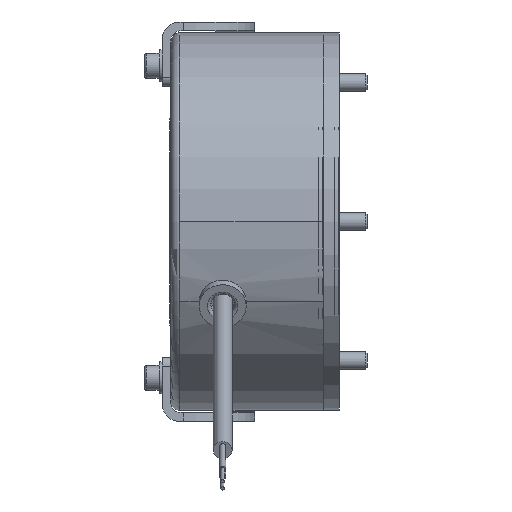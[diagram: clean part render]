
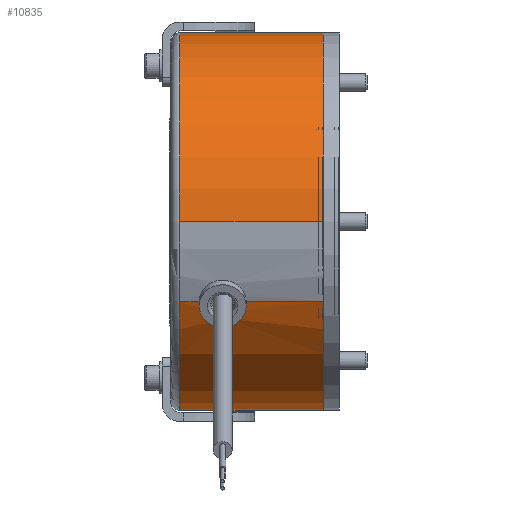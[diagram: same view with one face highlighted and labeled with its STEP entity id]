
A CAD part, front view. The second image highlights one B-rep face of the part: STEP entity #10835.
In plain terms, the highlighted cylindrical face has radius 53 mm (diameter 106 mm), a partial arc.
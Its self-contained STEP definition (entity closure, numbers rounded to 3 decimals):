
#418=FACE_OUTER_BOUND('',#1016,.T.);
#1016=EDGE_LOOP('',(#6629,#6630,#6631,#6632,#6633,#6634,#6635,#6636,#6637,
#6638,#6639));
#1724=B_SPLINE_CURVE_WITH_KNOTS('',3,(#16190,#16191,#16192,#16193,#16194,
#16195,#16196,#16197,#16198,#16199,#16200,#16201,#16202),.UNSPECIFIED.,
 .F.,.F.,(4,1,1,1,1,1,1,1,1,1,4),(-1.74,-1.492,-1.326,
-0.995,-0.746,-0.622,-0.497,
-0.373,-0.249,-0.124,0.),
 .UNSPECIFIED.);
#1954=CIRCLE('',#11458,53.);
#1955=CIRCLE('',#11459,53.);
#1956=CIRCLE('',#11460,53.);
#1957=CIRCLE('',#11461,53.);
#1958=CIRCLE('',#11462,53.);
#2741=LINE('',#16172,#3310);
#2742=LINE('',#16180,#3311);
#2743=LINE('',#16186,#3312);
#2744=LINE('',#16188,#3313);
#2745=LINE('',#16203,#3314);
#3310=VECTOR('',#12841,53.);
#3311=VECTOR('',#12848,53.);
#3312=VECTOR('',#12853,53.);
#3313=VECTOR('',#12854,10.);
#3314=VECTOR('',#12855,10.);
#3879=VERTEX_POINT('',#16170);
#3880=VERTEX_POINT('',#16171);
#3881=VERTEX_POINT('',#16173);
#3882=VERTEX_POINT('',#16175);
#3883=VERTEX_POINT('',#16177);
#3884=VERTEX_POINT('',#16179);
#3885=VERTEX_POINT('',#16181);
#3886=VERTEX_POINT('',#16183);
#3887=VERTEX_POINT('',#16185);
#3888=VERTEX_POINT('',#16187);
#3889=VERTEX_POINT('',#16189);
#5002=EDGE_CURVE('',#3879,#3880,#2741,.T.);
#5003=EDGE_CURVE('',#3881,#3879,#1954,.T.);
#5004=EDGE_CURVE('',#3882,#3881,#1955,.T.);
#5005=EDGE_CURVE('',#3883,#3882,#1956,.T.);
#5006=EDGE_CURVE('',#3884,#3883,#2742,.T.);
#5007=EDGE_CURVE('',#3885,#3884,#1957,.T.);
#5008=EDGE_CURVE('',#3886,#3885,#1958,.T.);
#5009=EDGE_CURVE('',#3887,#3886,#2743,.T.);
#5010=EDGE_CURVE('',#3888,#3887,#2744,.T.);
#5011=EDGE_CURVE('',#3889,#3888,#1724,.T.);
#5012=EDGE_CURVE('',#3880,#3889,#2745,.T.);
#6629=ORIENTED_EDGE('',*,*,#5002,.F.);
#6630=ORIENTED_EDGE('',*,*,#5003,.F.);
#6631=ORIENTED_EDGE('',*,*,#5004,.F.);
#6632=ORIENTED_EDGE('',*,*,#5005,.F.);
#6633=ORIENTED_EDGE('',*,*,#5006,.F.);
#6634=ORIENTED_EDGE('',*,*,#5007,.F.);
#6635=ORIENTED_EDGE('',*,*,#5008,.F.);
#6636=ORIENTED_EDGE('',*,*,#5009,.F.);
#6637=ORIENTED_EDGE('',*,*,#5010,.F.);
#6638=ORIENTED_EDGE('',*,*,#5011,.F.);
#6639=ORIENTED_EDGE('',*,*,#5012,.F.);
#9883=CYLINDRICAL_SURFACE('',#11457,53.);
#10835=ADVANCED_FACE('',(#418),#9883,.T.);
#11457=AXIS2_PLACEMENT_3D('',#16169,#12839,#12840);
#11458=AXIS2_PLACEMENT_3D('',#16174,#12842,#12843);
#11459=AXIS2_PLACEMENT_3D('',#16176,#12844,#12845);
#11460=AXIS2_PLACEMENT_3D('',#16178,#12846,#12847);
#11461=AXIS2_PLACEMENT_3D('',#16182,#12849,#12850);
#11462=AXIS2_PLACEMENT_3D('',#16184,#12851,#12852);
#12839=DIRECTION('center_axis',(1.,0.,0.));
#12840=DIRECTION('ref_axis',(0.,0.906,0.423));
#12841=DIRECTION('',(1.,0.,0.));
#12842=DIRECTION('center_axis',(-1.,0.,0.));
#12843=DIRECTION('ref_axis',(0.,-1.,0.));
#12844=DIRECTION('center_axis',(-1.,0.,0.));
#12845=DIRECTION('ref_axis',(0.,-1.,0.));
#12846=DIRECTION('center_axis',(-1.,0.,0.));
#12847=DIRECTION('ref_axis',(0.,-1.,0.));
#12848=DIRECTION('',(-1.,0.,0.));
#12849=DIRECTION('center_axis',(1.,0.,0.));
#12850=DIRECTION('ref_axis',(0.,1.,0.));
#12851=DIRECTION('center_axis',(1.,0.,0.));
#12852=DIRECTION('ref_axis',(0.,1.,0.));
#12853=DIRECTION('',(1.,0.,0.));
#12854=DIRECTION('',(1.,0.,0.));
#12855=DIRECTION('',(1.,0.,0.));
#16169=CARTESIAN_POINT('Origin',(-21.35,0.,0.));
#16170=CARTESIAN_POINT('',(-40.2,-48.034,-22.399));
#16171=CARTESIAN_POINT('',(-34.8,-48.034,-22.399));
#16172=CARTESIAN_POINT('',(-21.35,-48.034,-22.399));
#16173=CARTESIAN_POINT('',(-40.2,53.,0.));
#16174=CARTESIAN_POINT('Origin',(-40.2,0.,0.));
#16175=CARTESIAN_POINT('',(-40.2,0.,53.));
#16176=CARTESIAN_POINT('Origin',(-40.2,0.,0.));
#16177=CARTESIAN_POINT('',(-40.2,-53.,0.));
#16178=CARTESIAN_POINT('Origin',(-40.2,0.,0.));
#16179=CARTESIAN_POINT('',(0.,-53.,0.));
#16180=CARTESIAN_POINT('',(-21.35,-53.,0.));
#16181=CARTESIAN_POINT('',(0.,53.,0.));
#16182=CARTESIAN_POINT('Origin',(0.,0.,0.));
#16183=CARTESIAN_POINT('',(0.,-48.034,-22.399));
#16184=CARTESIAN_POINT('Origin',(0.,0.,0.));
#16185=CARTESIAN_POINT('',(-21.6,-48.034,-22.399));
#16186=CARTESIAN_POINT('',(-21.35,-48.034,-22.399));
#16187=CARTESIAN_POINT('',(-22.6,-48.034,-22.399));
#16188=CARTESIAN_POINT('',(-21.35,-48.034,-22.399));
#16189=CARTESIAN_POINT('',(-33.8,-48.034,-22.399));
#16190=CARTESIAN_POINT('Ctrl Pts',(-33.791,-48.031,
-22.397));
#16191=CARTESIAN_POINT('Ctrl Pts',(-33.792,-47.671,
-23.171));
#16192=CARTESIAN_POINT('Ctrl Pts',(-33.493,-47.044,-24.449));
#16193=CARTESIAN_POINT('Ctrl Pts',(-32.049,-46.01,
-26.329));
#16194=CARTESIAN_POINT('Ctrl Pts',(-29.781,-45.318,
-27.485));
#16195=CARTESIAN_POINT('Ctrl Pts',(-27.348,-45.318,
-27.483));
#16196=CARTESIAN_POINT('Ctrl Pts',(-25.71,-45.62,
-26.981));
#16197=CARTESIAN_POINT('Ctrl Pts',(-24.517,-46.019,
-26.298));
#16198=CARTESIAN_POINT('Ctrl Pts',(-23.542,-46.561,-25.329));
#16199=CARTESIAN_POINT('Ctrl Pts',(-22.911,-47.145,
-24.226));
#16200=CARTESIAN_POINT('Ctrl Pts',(-22.628,-47.68,
-23.151));
#16201=CARTESIAN_POINT('Ctrl Pts',(-22.6,-47.915,
-22.654));
#16202=CARTESIAN_POINT('Ctrl Pts',(-22.6,-48.034,
-22.399));
#16203=CARTESIAN_POINT('',(-21.35,-48.034,-22.399));
